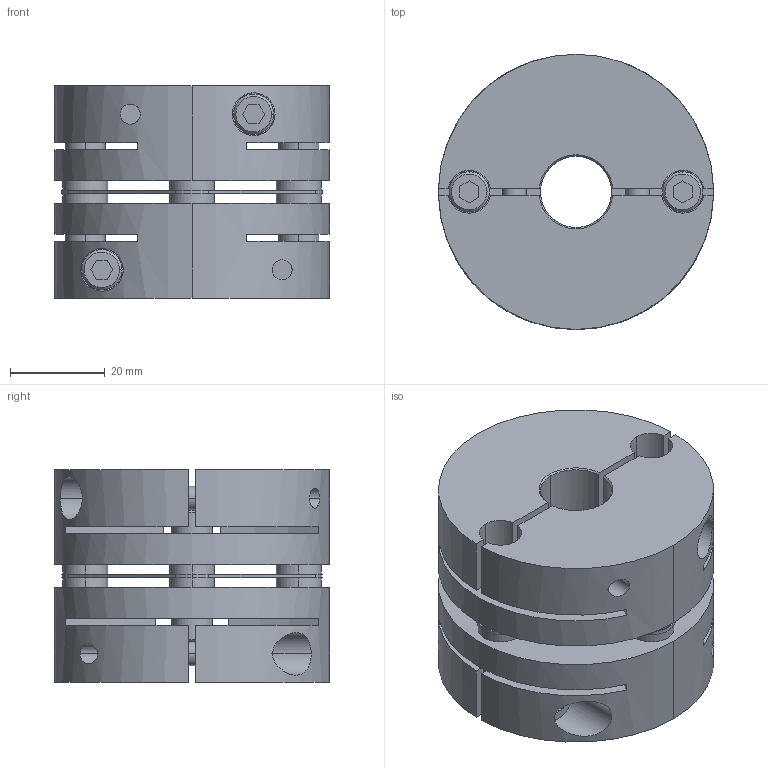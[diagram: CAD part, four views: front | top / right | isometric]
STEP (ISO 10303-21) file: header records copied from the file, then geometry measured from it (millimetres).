
FILE_DESCRIPTION((''),'2;1');
FILE_NAME('LAS-58C-15×18.stp','2015-10-15T14:48:17',(''),(''),'AutoCAD STEP 2000i','AutoCAD 2000i',', , ');
FILE_SCHEMA(('CONFIG_CONTROL_DESIGN'));
Length unit declared in the file: millimetre
Products named in the file (6): LAS-58C-12×19; 忣兜1; LA-5802-D19; LA-5802-D12-1; LA-5802-D12; LAS58-ITA
Assembly tree (5 placements, depth 2):
  LAS-58C-12×19
    忣兜1
    LA-5802-D19
    LA-5802-D12-1
    LA-5802-D12
    LAS58-ITA
Bounding box: 58 x 58 x 44.8 mm (x, y, z)
Volume: 87741.4 mm3; surface area: 33376.8 mm2
Topology: 1 solids, 1 shells, 238 faces, 618 edges, 404 vertices
Faces by surface type: plane 114, cylinder 96, cone 28
Entity records: 8213 total; most frequent: CARTESIAN_POINT 1988, DIRECTION 1316, ORIENTED_EDGE 1240, EDGE_CURVE 620, AXIS2_PLACEMENT_3D 484, VERTEX_POINT 404, VECTOR 348, LINE 348
